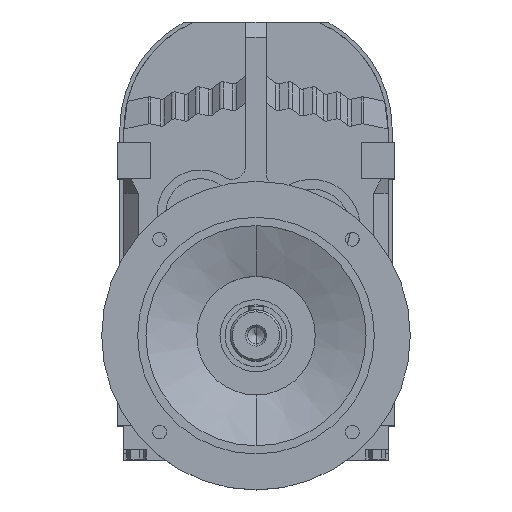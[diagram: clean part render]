
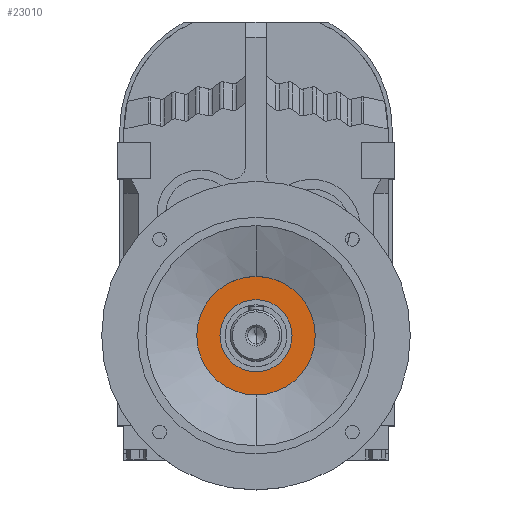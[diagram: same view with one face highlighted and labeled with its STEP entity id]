
A CAD part, top view. The second image highlights one B-rep face of the part: STEP entity #23010.
In plain terms, the highlighted planar face has unit normal (0, 0, 1).
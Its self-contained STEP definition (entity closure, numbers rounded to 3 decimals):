
#14804 = CYLINDRICAL_SURFACE('',#14805,57.6);
#14805 = AXIS2_PLACEMENT_3D('',#14806,#14807,#14808);
#14806 = CARTESIAN_POINT('',(0.,-200.,110.123));
#14807 = DIRECTION('',(0.,0.,1.));
#14808 = DIRECTION('',(1.,0.,0.));
#14830 = CYLINDRICAL_SURFACE('',#14831,57.6);
#14831 = AXIS2_PLACEMENT_3D('',#14832,#14833,#14834);
#14832 = CARTESIAN_POINT('',(0.,-200.,110.123));
#14833 = DIRECTION('',(0.,0.,1.));
#14834 = DIRECTION('',(1.,0.,0.));
#20013 = VERTEX_POINT('',#20014);
#20014 = CARTESIAN_POINT('',(-57.6,-200.,187.5));
#20035 = VERTEX_POINT('',#20036);
#20036 = CARTESIAN_POINT('',(57.6,-200.,187.5));
#20055 = EDGE_CURVE('',#20035,#20013,#20056,.T.);
#20056 = SURFACE_CURVE('',#20057,(#20062,#20068),.PCURVE_S1.);
#20057 = CIRCLE('',#20058,57.6);
#20058 = AXIS2_PLACEMENT_3D('',#20059,#20060,#20061);
#20059 = CARTESIAN_POINT('',(0.,-200.,187.5));
#20060 = DIRECTION('',(0.,0.,1.));
#20061 = DIRECTION('',(1.,0.,0.));
#20062 = PCURVE('',#14804,#20063);
#20063 = DEFINITIONAL_REPRESENTATION('',(#20064),#20067);
#20064 = B_SPLINE_CURVE_WITH_KNOTS('',1,(#20065,#20066),.UNSPECIFIED.,
  .F.,.F.,(2,2),(0.,3.142),.PIECEWISE_BEZIER_KNOTS.);
#20065 = CARTESIAN_POINT('',(0.,77.377));
#20066 = CARTESIAN_POINT('',(3.142,77.377));
#20067 = ( GEOMETRIC_REPRESENTATION_CONTEXT(2) 
PARAMETRIC_REPRESENTATION_CONTEXT() REPRESENTATION_CONTEXT('2D SPACE',''
  ) );
#20068 = PCURVE('',#20069,#20074);
#20069 = PLANE('',#20070);
#20070 = AXIS2_PLACEMENT_3D('',#20071,#20072,#20073);
#20071 = CARTESIAN_POINT('',(0.,-142.4,187.5));
#20072 = DIRECTION('',(0.,0.,1.));
#20073 = DIRECTION('',(1.,0.,0.));
#20074 = DEFINITIONAL_REPRESENTATION('',(#20075),#20079);
#20075 = CIRCLE('',#20076,57.6);
#20076 = AXIS2_PLACEMENT_2D('',#20077,#20078);
#20077 = CARTESIAN_POINT('',(0.,-57.6));
#20078 = DIRECTION('',(1.,0.));
#20079 = ( GEOMETRIC_REPRESENTATION_CONTEXT(2) 
PARAMETRIC_REPRESENTATION_CONTEXT() REPRESENTATION_CONTEXT('2D SPACE',''
  ) );
#20545 = EDGE_CURVE('',#20013,#20035,#20546,.T.);
#20546 = SURFACE_CURVE('',#20547,(#20552,#20558),.PCURVE_S1.);
#20547 = CIRCLE('',#20548,57.6);
#20548 = AXIS2_PLACEMENT_3D('',#20549,#20550,#20551);
#20549 = CARTESIAN_POINT('',(0.,-200.,187.5));
#20550 = DIRECTION('',(0.,0.,1.));
#20551 = DIRECTION('',(1.,0.,0.));
#20552 = PCURVE('',#14830,#20553);
#20553 = DEFINITIONAL_REPRESENTATION('',(#20554),#20557);
#20554 = B_SPLINE_CURVE_WITH_KNOTS('',1,(#20555,#20556),.UNSPECIFIED.,
  .F.,.F.,(2,2),(3.142,6.283),.PIECEWISE_BEZIER_KNOTS.);
#20555 = CARTESIAN_POINT('',(3.142,77.377));
#20556 = CARTESIAN_POINT('',(6.283,77.377));
#20557 = ( GEOMETRIC_REPRESENTATION_CONTEXT(2) 
PARAMETRIC_REPRESENTATION_CONTEXT() REPRESENTATION_CONTEXT('2D SPACE',''
  ) );
#20558 = PCURVE('',#20069,#20559);
#20559 = DEFINITIONAL_REPRESENTATION('',(#20560),#20564);
#20560 = CIRCLE('',#20561,57.6);
#20561 = AXIS2_PLACEMENT_2D('',#20562,#20563);
#20562 = CARTESIAN_POINT('',(0.,-57.6));
#20563 = DIRECTION('',(1.,0.));
#20564 = ( GEOMETRIC_REPRESENTATION_CONTEXT(2) 
PARAMETRIC_REPRESENTATION_CONTEXT() REPRESENTATION_CONTEXT('2D SPACE',''
  ) );
#23010 = ADVANCED_FACE('',(#23011,#23015),#20069,.T.);
#23011 = FACE_BOUND('',#23012,.T.);
#23012 = EDGE_LOOP('',(#23013,#23014));
#23013 = ORIENTED_EDGE('',*,*,#20055,.T.);
#23014 = ORIENTED_EDGE('',*,*,#20545,.T.);
#23015 = FACE_BOUND('',#23016,.T.);
#23016 = EDGE_LOOP('',(#23017,#23047));
#23017 = ORIENTED_EDGE('',*,*,#23018,.F.);
#23018 = EDGE_CURVE('',#23019,#23021,#23023,.T.);
#23019 = VERTEX_POINT('',#23020);
#23020 = CARTESIAN_POINT('',(35.,-200.,187.5));
#23021 = VERTEX_POINT('',#23022);
#23022 = CARTESIAN_POINT('',(-35.,-200.,187.5));
#23023 = SURFACE_CURVE('',#23024,(#23029,#23036),.PCURVE_S1.);
#23024 = CIRCLE('',#23025,35.);
#23025 = AXIS2_PLACEMENT_3D('',#23026,#23027,#23028);
#23026 = CARTESIAN_POINT('',(0.,-200.,187.5));
#23027 = DIRECTION('',(0.,0.,1.));
#23028 = DIRECTION('',(1.,0.,0.));
#23029 = PCURVE('',#20069,#23030);
#23030 = DEFINITIONAL_REPRESENTATION('',(#23031),#23035);
#23031 = CIRCLE('',#23032,35.);
#23032 = AXIS2_PLACEMENT_2D('',#23033,#23034);
#23033 = CARTESIAN_POINT('',(0.,-57.6));
#23034 = DIRECTION('',(1.,0.));
#23035 = ( GEOMETRIC_REPRESENTATION_CONTEXT(2) 
PARAMETRIC_REPRESENTATION_CONTEXT() REPRESENTATION_CONTEXT('2D SPACE',''
  ) );
#23036 = PCURVE('',#23037,#23042);
#23037 = CYLINDRICAL_SURFACE('',#23038,35.);
#23038 = AXIS2_PLACEMENT_3D('',#23039,#23040,#23041);
#23039 = CARTESIAN_POINT('',(0.,-200.,110.123));
#23040 = DIRECTION('',(0.,0.,1.));
#23041 = DIRECTION('',(1.,0.,0.));
#23042 = DEFINITIONAL_REPRESENTATION('',(#23043),#23046);
#23043 = B_SPLINE_CURVE_WITH_KNOTS('',1,(#23044,#23045),.UNSPECIFIED.,
  .F.,.F.,(2,2),(0.,3.142),.PIECEWISE_BEZIER_KNOTS.);
#23044 = CARTESIAN_POINT('',(0.,77.377));
#23045 = CARTESIAN_POINT('',(3.142,77.377));
#23046 = ( GEOMETRIC_REPRESENTATION_CONTEXT(2) 
PARAMETRIC_REPRESENTATION_CONTEXT() REPRESENTATION_CONTEXT('2D SPACE',''
  ) );
#23047 = ORIENTED_EDGE('',*,*,#23048,.F.);
#23048 = EDGE_CURVE('',#23021,#23019,#23049,.T.);
#23049 = SURFACE_CURVE('',#23050,(#23055,#23062),.PCURVE_S1.);
#23050 = CIRCLE('',#23051,35.);
#23051 = AXIS2_PLACEMENT_3D('',#23052,#23053,#23054);
#23052 = CARTESIAN_POINT('',(0.,-200.,187.5));
#23053 = DIRECTION('',(0.,0.,1.));
#23054 = DIRECTION('',(1.,0.,0.));
#23055 = PCURVE('',#20069,#23056);
#23056 = DEFINITIONAL_REPRESENTATION('',(#23057),#23061);
#23057 = CIRCLE('',#23058,35.);
#23058 = AXIS2_PLACEMENT_2D('',#23059,#23060);
#23059 = CARTESIAN_POINT('',(0.,-57.6));
#23060 = DIRECTION('',(1.,0.));
#23061 = ( GEOMETRIC_REPRESENTATION_CONTEXT(2) 
PARAMETRIC_REPRESENTATION_CONTEXT() REPRESENTATION_CONTEXT('2D SPACE',''
  ) );
#23062 = PCURVE('',#23063,#23068);
#23063 = CYLINDRICAL_SURFACE('',#23064,35.);
#23064 = AXIS2_PLACEMENT_3D('',#23065,#23066,#23067);
#23065 = CARTESIAN_POINT('',(0.,-200.,110.123));
#23066 = DIRECTION('',(0.,0.,1.));
#23067 = DIRECTION('',(1.,0.,0.));
#23068 = DEFINITIONAL_REPRESENTATION('',(#23069),#23072);
#23069 = B_SPLINE_CURVE_WITH_KNOTS('',1,(#23070,#23071),.UNSPECIFIED.,
  .F.,.F.,(2,2),(3.142,6.283),.PIECEWISE_BEZIER_KNOTS.);
#23070 = CARTESIAN_POINT('',(3.142,77.377));
#23071 = CARTESIAN_POINT('',(6.283,77.377));
#23072 = ( GEOMETRIC_REPRESENTATION_CONTEXT(2) 
PARAMETRIC_REPRESENTATION_CONTEXT() REPRESENTATION_CONTEXT('2D SPACE',''
  ) );
